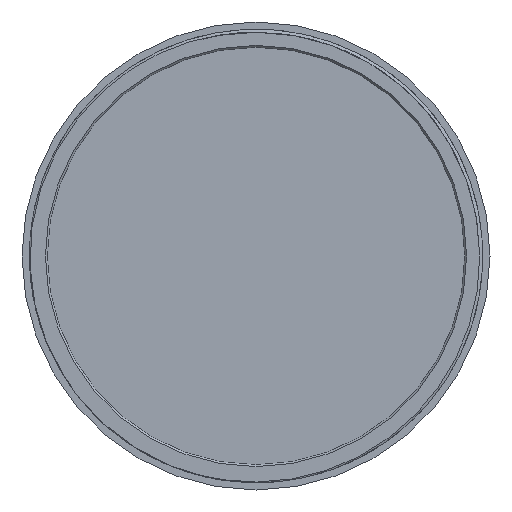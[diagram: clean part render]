
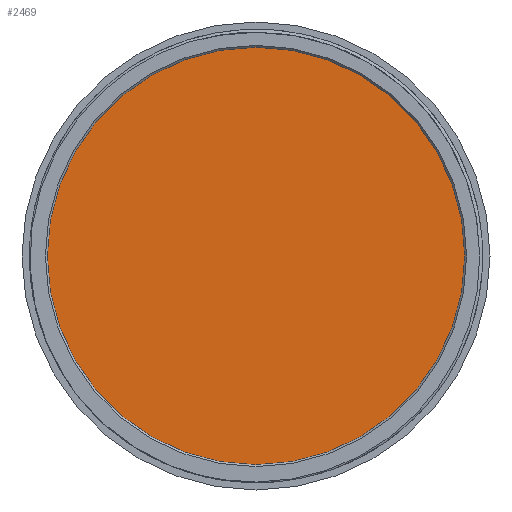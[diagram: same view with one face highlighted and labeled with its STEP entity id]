
A CAD part, front view. The second image highlights one B-rep face of the part: STEP entity #2469.
In plain terms, the highlighted planar face has unit normal (0, -1, 0).
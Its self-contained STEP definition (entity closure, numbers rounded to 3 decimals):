
#58 = CARTESIAN_POINT ( 'NONE',  ( 0., 2.3, 0. ) ) ;
#364 = DIRECTION ( 'NONE',  ( 0., 0., 1. ) ) ;
#368 = AXIS2_PLACEMENT_3D ( 'NONE', #573, #3108, #2360 ) ;
#485 = VERTEX_POINT ( 'NONE', #1244 ) ;
#573 = CARTESIAN_POINT ( 'NONE',  ( 0., 2.3, 0. ) ) ;
#618 = EDGE_CURVE ( 'NONE', #1960, #485, #2611, .T. ) ;
#697 = EDGE_LOOP ( 'NONE', ( #2687, #864 ) ) ;
#864 = ORIENTED_EDGE ( 'NONE', *, *, #881, .F. ) ;
#881 = EDGE_CURVE ( 'NONE', #485, #1960, #2388, .T. ) ;
#942 = AXIS2_PLACEMENT_3D ( 'NONE', #2682, #2969, #1685 ) ;
#1046 = DIRECTION ( 'NONE',  ( 0., 1., 0. ) ) ;
#1160 = AXIS2_PLACEMENT_3D ( 'NONE', #58, #1046, #364 ) ;
#1244 = CARTESIAN_POINT ( 'NONE',  ( 0., 2.3, 29.3 ) ) ;
#1685 = DIRECTION ( 'NONE',  ( 0., 0., 1. ) ) ;
#1960 = VERTEX_POINT ( 'NONE', #3078 ) ;
#2360 = DIRECTION ( 'NONE',  ( 0., 0., 1. ) ) ;
#2374 = FACE_OUTER_BOUND ( 'NONE', #697, .T. ) ;
#2388 = CIRCLE ( 'NONE', #942, 29.3 ) ;
#2469 = ADVANCED_FACE ( 'NONE', ( #2374 ), #2581, .F. ) ;
#2581 = PLANE ( 'NONE',  #368 ) ;
#2611 = CIRCLE ( 'NONE', #1160, 29.3 ) ;
#2682 = CARTESIAN_POINT ( 'NONE',  ( 0., 2.3, 0. ) ) ;
#2687 = ORIENTED_EDGE ( 'NONE', *, *, #618, .F. ) ;
#2969 = DIRECTION ( 'NONE',  ( 0., 1., 0. ) ) ;
#3078 = CARTESIAN_POINT ( 'NONE',  ( 0., 2.3, -29.3 ) ) ;
#3108 = DIRECTION ( 'NONE',  ( 0., 1., 0. ) ) ;
